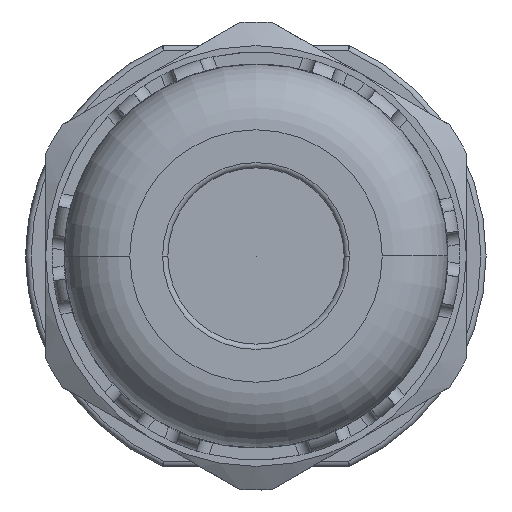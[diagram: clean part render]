
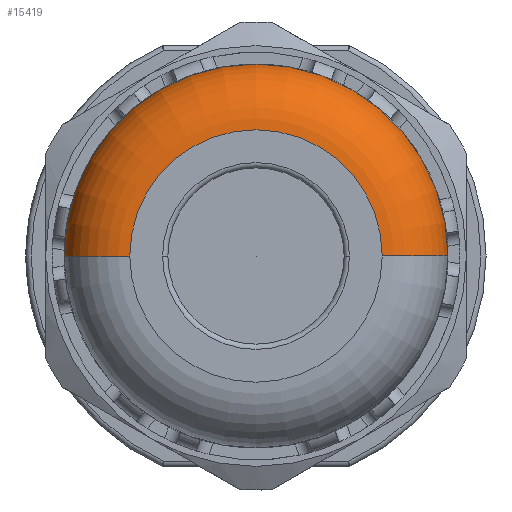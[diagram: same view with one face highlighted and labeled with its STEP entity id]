
A CAD part, left-side view. The second image highlights one B-rep face of the part: STEP entity #15419.
In plain terms, the highlighted toroidal (fillet/blend) face has major radius 4.8 mm and minor radius 2.5 mm.
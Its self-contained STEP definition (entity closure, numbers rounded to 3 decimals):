
#4249=CARTESIAN_POINT('',(2.5,8.9,-8.901));
#4250=DIRECTION('',(1.,0.,0.));
#4251=DIRECTION('',(0.,1.,0.));
#4252=AXIS2_PLACEMENT_3D('',#4249,#4250,#4251);
#4254=CARTESIAN_POINT('',(0.,8.9,-8.901));
#4255=DIRECTION('',(-1.,0.,0.));
#4256=DIRECTION('',(0.,-1.,0.));
#4257=AXIS2_PLACEMENT_3D('',#4254,#4255,#4256);
#4259=CARTESIAN_POINT('',(2.5,13.7,-8.901));
#4260=DIRECTION('',(0.,0.,-1.));
#4261=DIRECTION('',(-1.,0.,0.));
#4262=AXIS2_PLACEMENT_3D('',#4259,#4260,#4261);
#4274=CARTESIAN_POINT('',(2.5,4.1,-8.901));
#4275=DIRECTION('',(0.,0.,1.));
#4276=DIRECTION('',(-1.,0.,0.));
#4277=AXIS2_PLACEMENT_3D('',#4274,#4275,#4276);
#9962=CARTESIAN_POINT('',(0.,13.7,-8.901));
#9963=CARTESIAN_POINT('',(2.5,16.2,-8.901));
#9964=VERTEX_POINT('',#9962);
#9965=VERTEX_POINT('',#9963);
#9966=CARTESIAN_POINT('',(0.,4.1,-8.901));
#9967=CARTESIAN_POINT('',(2.5,1.6,-8.901));
#9968=VERTEX_POINT('',#9966);
#9969=VERTEX_POINT('',#9967);
#15405=CARTESIAN_POINT('',(2.5,8.9,-8.901));
#15406=DIRECTION('',(-1.,0.,0.));
#15407=DIRECTION('',(0.,1.,-0.005));
#15408=AXIS2_PLACEMENT_3D('',#15405,#15406,#15407);
#15409=TOROIDAL_SURFACE('',#15408,4.8,2.5);
#15410=ORIENTED_EDGE('',*,*,#14905,.T.);
#15412=ORIENTED_EDGE('',*,*,#15411,.F.);
#15414=ORIENTED_EDGE('',*,*,#15413,.T.);
#15416=ORIENTED_EDGE('',*,*,#15415,.T.);
#15417=EDGE_LOOP('',(#15410,#15412,#15414,#15416));
#15418=FACE_OUTER_BOUND('',#15417,.F.);
#4253=CIRCLE('',#4252,7.3);
#4258=CIRCLE('',#4257,4.8);
#4263=CIRCLE('',#4262,2.5);
#4278=CIRCLE('',#4277,2.5);
#14905=EDGE_CURVE('',#9965,#9969,#4253,.T.);
#15411=EDGE_CURVE('',#9968,#9969,#4278,.T.);
#15413=EDGE_CURVE('',#9968,#9964,#4258,.T.);
#15415=EDGE_CURVE('',#9964,#9965,#4263,.T.);
#15419=ADVANCED_FACE('',(#15418),#15409,.T.);
